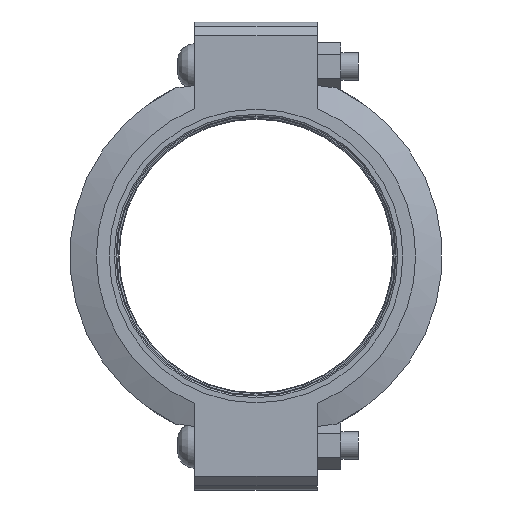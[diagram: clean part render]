
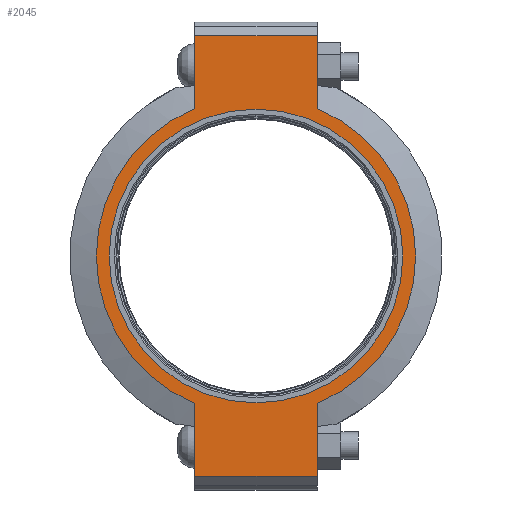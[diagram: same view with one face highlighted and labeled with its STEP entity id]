
A CAD part, left-side view. The second image highlights one B-rep face of the part: STEP entity #2045.
In plain terms, the highlighted planar face has unit normal (-1, 0, 0) as drawn and (0, 0, 1) by its records, which use the part's own axes.
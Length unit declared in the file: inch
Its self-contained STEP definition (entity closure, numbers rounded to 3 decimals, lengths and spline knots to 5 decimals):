
#154=LINE('',#3598,#247);
#165=LINE('',#3649,#258);
#171=LINE('',#3675,#264);
#173=LINE('',#3678,#266);
#174=LINE('',#3683,#267);
#175=LINE('',#3684,#268);
#247=VECTOR('',#2933,0.3937);
#258=VECTOR('',#2964,0.3937);
#264=VECTOR('',#2982,0.3937);
#266=VECTOR('',#2986,0.3937);
#267=VECTOR('',#2991,0.3937);
#268=VECTOR('',#2992,0.3937);
#331=FACE_BOUND('',#584,.T.);
#374=PLANE('',#2391);
#461=FACE_OUTER_BOUND('',#583,.T.);
#583=EDGE_LOOP('',(#1718,#1719,#1720,#1721,#1722,#1723,#1724,#1725));
#584=EDGE_LOOP('',(#1726));
#768=CIRCLE('',#2392,5.845);
#769=CIRCLE('',#2393,5.845);
#770=CIRCLE('',#2394,5.375);
#940=VERTEX_POINT('',#3595);
#941=VERTEX_POINT('',#3597);
#958=VERTEX_POINT('',#3644);
#959=VERTEX_POINT('',#3648);
#966=VERTEX_POINT('',#3670);
#967=VERTEX_POINT('',#3674);
#968=VERTEX_POINT('',#3680);
#969=VERTEX_POINT('',#3682);
#970=VERTEX_POINT('',#3686);
#1195=EDGE_CURVE('',#941,#940,#154,.T.);
#1216=EDGE_CURVE('',#959,#958,#165,.T.);
#1227=EDGE_CURVE('',#967,#966,#171,.T.);
#1229=EDGE_CURVE('',#967,#940,#173,.T.);
#1230=EDGE_CURVE('',#966,#968,#768,.T.);
#1231=EDGE_CURVE('',#968,#969,#174,.T.);
#1232=EDGE_CURVE('',#959,#969,#175,.T.);
#1233=EDGE_CURVE('',#958,#941,#769,.T.);
#1234=EDGE_CURVE('',#970,#970,#770,.T.);
#1718=ORIENTED_EDGE('',*,*,#1229,.F.);
#1719=ORIENTED_EDGE('',*,*,#1227,.T.);
#1720=ORIENTED_EDGE('',*,*,#1230,.T.);
#1721=ORIENTED_EDGE('',*,*,#1231,.T.);
#1722=ORIENTED_EDGE('',*,*,#1232,.F.);
#1723=ORIENTED_EDGE('',*,*,#1216,.T.);
#1724=ORIENTED_EDGE('',*,*,#1233,.T.);
#1725=ORIENTED_EDGE('',*,*,#1195,.T.);
#1726=ORIENTED_EDGE('',*,*,#1234,.T.);
#2045=ADVANCED_FACE('',(#461,#331),#374,.T.);
#2391=AXIS2_PLACEMENT_3D('',#3679,#2987,#2988);
#2392=AXIS2_PLACEMENT_3D('',#3681,#2989,#2990);
#2393=AXIS2_PLACEMENT_3D('',#3685,#2993,#2994);
#2394=AXIS2_PLACEMENT_3D('',#3687,#2995,#2996);
#2933=DIRECTION('',(1.,0.,0.));
#2964=DIRECTION('',(1.,0.,0.));
#2982=DIRECTION('',(-1.,0.,0.));
#2986=DIRECTION('',(0.,-1.,0.));
#2987=DIRECTION('center_axis',(0.,0.,1.));
#2988=DIRECTION('ref_axis',(-1.,0.,0.));
#2989=DIRECTION('center_axis',(0.,0.,1.));
#2990=DIRECTION('ref_axis',(1.,0.,0.));
#2991=DIRECTION('',(-1.,0.,0.));
#2992=DIRECTION('',(0.,1.,0.));
#2993=DIRECTION('center_axis',(0.,0.,1.));
#2994=DIRECTION('ref_axis',(1.,0.,0.));
#2995=DIRECTION('center_axis',(0.,0.,-1.));
#2996=DIRECTION('ref_axis',(1.,0.,0.));
#3595=CARTESIAN_POINT('',(8.065,-2.25,1.315));
#3597=CARTESIAN_POINT('',(5.39458,-2.25,1.315));
#3598=CARTESIAN_POINT('',(-8.565,-2.25,1.315));
#3644=CARTESIAN_POINT('',(-5.39458,-2.25,1.315));
#3648=CARTESIAN_POINT('',(-8.065,-2.25,1.315));
#3649=CARTESIAN_POINT('',(-8.565,-2.25,1.315));
#3670=CARTESIAN_POINT('',(5.39458,2.25,1.315));
#3674=CARTESIAN_POINT('',(8.065,2.25,1.315));
#3675=CARTESIAN_POINT('',(8.565,2.25,1.315));
#3678=CARTESIAN_POINT('',(8.065,-1.125,1.315));
#3679=CARTESIAN_POINT('Origin',(0.,0.,
1.315));
#3680=CARTESIAN_POINT('',(-5.39458,2.25,1.315));
#3681=CARTESIAN_POINT('Origin',(0.,0.,1.315));
#3682=CARTESIAN_POINT('',(-8.065,2.25,1.315));
#3683=CARTESIAN_POINT('',(8.565,2.25,1.315));
#3684=CARTESIAN_POINT('',(-8.065,1.125,1.315));
#3685=CARTESIAN_POINT('Origin',(0.,0.,1.315));
#3686=CARTESIAN_POINT('',(-5.375,0.,1.315));
#3687=CARTESIAN_POINT('Origin',(0.,0.,1.315));
